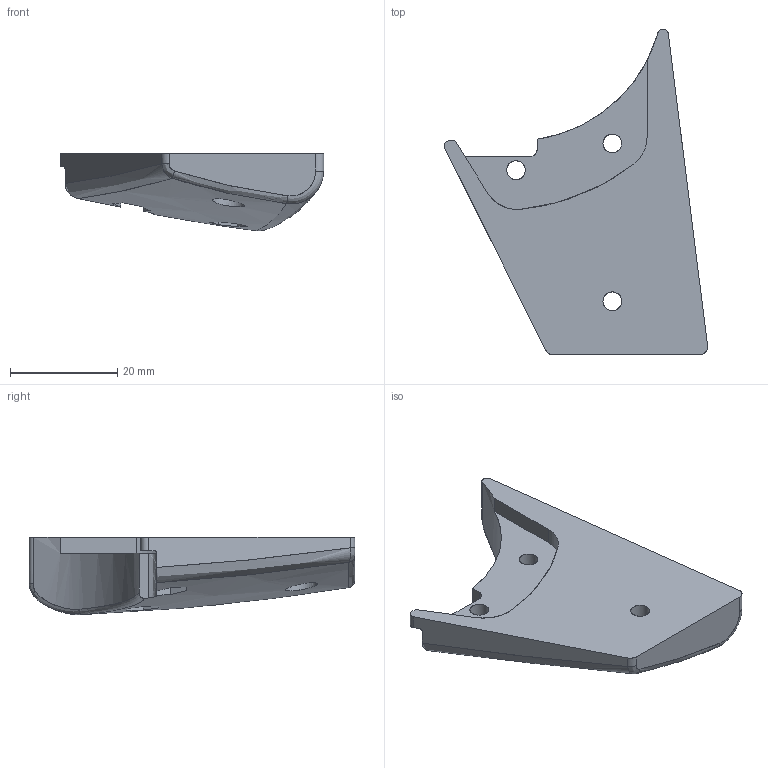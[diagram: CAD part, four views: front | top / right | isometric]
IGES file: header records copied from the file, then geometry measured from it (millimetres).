
Start section: SolidWorks IGES file using analytic representation for surfaces
Global section: file name: C:\Users\holy\Desktop\KRC5FH\GRIP\GRIP-DATA\GRIP-1-R-L.igs; native system: Rhinoceros ( Feb 26 2015 ); preprocessor: Trout Lake IGES 012 Feb 26 2015; date: 150529.074528; units: millimetre
Bounding box: 49.18 x 60.85 x 14.47 mm (x, y, z)
Surface area: 5427.7 mm2 (no closed solid volume)
Topology: 0 solids, 0 shells, 49 faces, 477 edges, 469 vertices
Faces by surface type: bspline 49
